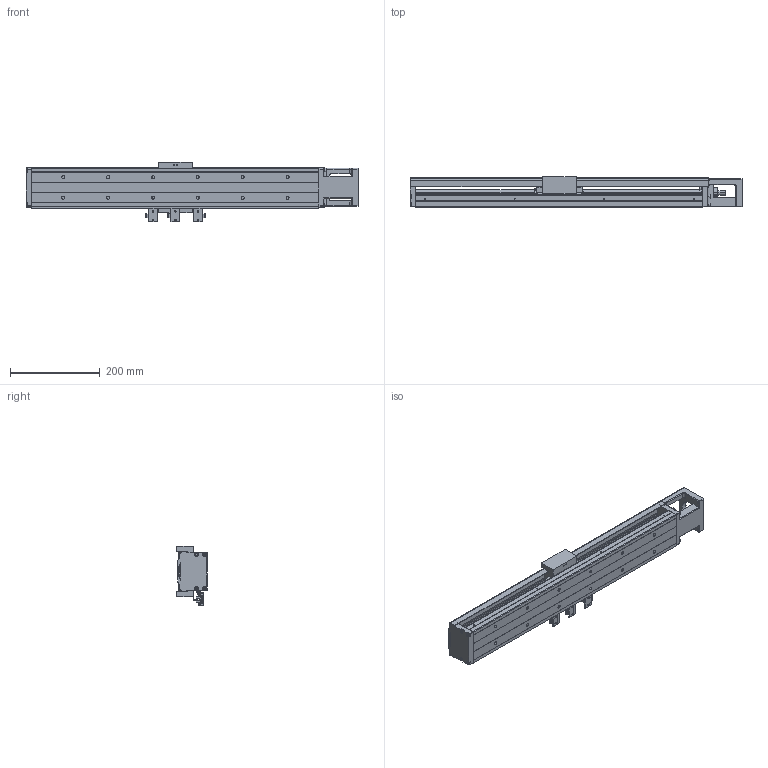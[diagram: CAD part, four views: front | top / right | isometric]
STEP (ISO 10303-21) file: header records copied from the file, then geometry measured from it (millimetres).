
FILE_DESCRIPTION (( 'STEP AP203' ), '1' );
FILE_NAME ('HKK86D20C-640A1-F0CS1.stp', '2021-11-29T08:00:20', ( '' ), ( '' ), 'SwSTEP 2.0', 'SolidWorks 2018', '' );
FILE_SCHEMA (( 'CONFIG_CONTROL_DESIGN' ));
Length unit declared in the file: millimetre
Products named in the file (1): HKK86D20C-640A1-F0CS1
Bounding box: 740 x 68 x 132.5 mm (x, y, z)
Volume: 1832933.9 mm3; surface area: 509745.6 mm2
Topology: 6 solids, 21 shells, 1448 faces, 3615 edges, 2278 vertices
Faces by surface type: plane 800, cylinder 461, cone 138, torus 32, sphere 9, bspline 8
Entity records: 43205 total; most frequent: CARTESIAN_POINT 8654, DIRECTION 7159, ORIENTED_EDGE 7098, EDGE_CURVE 3549, AXIS2_PLACEMENT_3D 2394, LINE 2371, VECTOR 2371, VERTEX_POINT 2274
